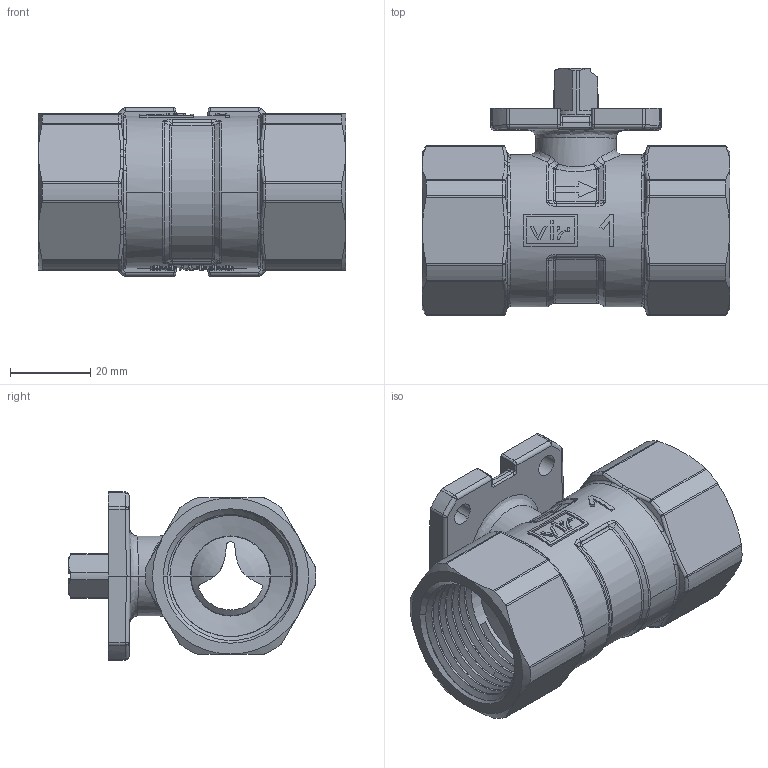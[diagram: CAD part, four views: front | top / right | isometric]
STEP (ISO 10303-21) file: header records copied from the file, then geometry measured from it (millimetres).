
FILE_DESCRIPTION((''),'2;1');
FILE_NAME('H980SX025_1527_SW0001','2015-05-20T',('64ciro'),('Vir spa'),'PRO/ENGINEER BY PARAMETRIC TECHNOLOGY CORPORATION, 2010280','PRO/ENGINEER BY PARAMETRIC TECHNOLOGY CORPORATION, 2010280','');
FILE_SCHEMA(('CONFIG_CONTROL_DESIGN'));
Products named in the file (1): H980SX025_1527_SW0001
Bounding box: 76.8 x 61.74 x 42 mm (x, y, z)
Volume: 57065.9 mm3; surface area: 33638.9 mm2
Topology: 1 solids, 1 shells, 1093 faces, 2809 edges, 1768 vertices
Faces by surface type: plane 524, cylinder 231, bspline 180, torus 72, cone 66, sphere 18, extrusion 2
Entity records: 46473 total; most frequent: CARTESIAN_POINT 22283, ORIENTED_EDGE 5618, DIRECTION 4223, EDGE_CURVE 2809, VERTEX_POINT 1768, AXIS2_PLACEMENT_3D 1650, EDGE_LOOP 1157, B_SPLINE_CURVE_WITH_KNOTS 1151
